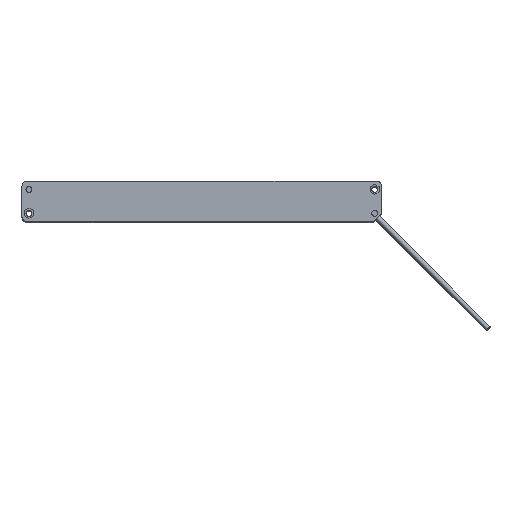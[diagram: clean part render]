
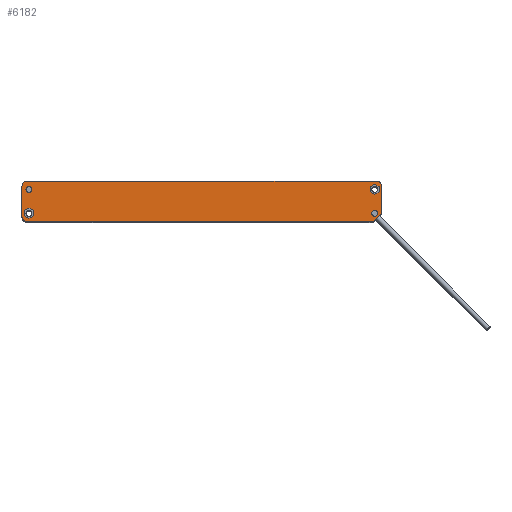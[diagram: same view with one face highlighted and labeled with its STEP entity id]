
A CAD part, top view. The second image highlights one B-rep face of the part: STEP entity #6182.
In plain terms, the highlighted planar face has unit normal (0, 0, 1).
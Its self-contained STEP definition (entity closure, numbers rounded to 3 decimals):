
#207=FACE_BOUND('',#1037,.T.);
#208=FACE_BOUND('',#1038,.T.);
#209=FACE_BOUND('',#1039,.T.);
#210=FACE_BOUND('',#1040,.T.);
#335=CIRCLE('',#6651,2.25);
#337=CIRCLE('',#6656,4.);
#339=CIRCLE('',#6659,4.);
#341=CIRCLE('',#6665,0.5);
#342=CIRCLE('',#6666,0.5);
#343=CIRCLE('',#6667,4.);
#344=CIRCLE('',#6668,2.25);
#630=FACE_OUTER_BOUND('',#1036,.T.);
#1036=EDGE_LOOP('',(#4713,#4714,#4715,#4716,#4717,#4718,#4719,#4720,#4721,
#4722));
#1037=EDGE_LOOP('',(#4723,#4724,#4725,#4726,#4727,#4728));
#1038=EDGE_LOOP('',(#4729));
#1039=EDGE_LOOP('',(#4730));
#1040=EDGE_LOOP('',(#4731,#4732,#4733,#4734,#4735,#4736));
#1572=LINE('',#9709,#2172);
#1575=LINE('',#9714,#2175);
#1577=LINE('',#9718,#2177);
#1579=LINE('',#9722,#2179);
#1581=LINE('',#9726,#2181);
#1583=LINE('',#9729,#2183);
#1586=LINE('',#9740,#2186);
#1591=LINE('',#9761,#2191);
#1596=LINE('',#9770,#2196);
#1604=LINE('',#9786,#2204);
#1605=LINE('',#9790,#2205);
#1606=LINE('',#9794,#2206);
#1607=LINE('',#9796,#2207);
#1608=LINE('',#9798,#2208);
#1609=LINE('',#9800,#2209);
#1610=LINE('',#9802,#2210);
#1611=LINE('',#9803,#2211);
#2172=VECTOR('',#7867,3.969);
#2175=VECTOR('',#7872,3.969);
#2177=VECTOR('',#7876,3.969);
#2179=VECTOR('',#7880,3.969);
#2181=VECTOR('',#7884,3.969);
#2183=VECTOR('',#7888,3.969);
#2186=VECTOR('',#7897,22.5);
#2191=VECTOR('',#7920,262.);
#2196=VECTOR('',#7927,259.379);
#2204=VECTOR('',#7941,8.657);
#2205=VECTOR('',#7944,19.879);
#2206=VECTOR('',#7947,3.969);
#2207=VECTOR('',#7948,3.969);
#2208=VECTOR('',#7949,3.969);
#2209=VECTOR('',#7950,3.969);
#2210=VECTOR('',#7951,3.969);
#2211=VECTOR('',#7952,3.969);
#2729=VERTEX_POINT('',#9707);
#2730=VERTEX_POINT('',#9708);
#2731=VERTEX_POINT('',#9713);
#2732=VERTEX_POINT('',#9717);
#2733=VERTEX_POINT('',#9721);
#2734=VERTEX_POINT('',#9725);
#2735=VERTEX_POINT('',#9731);
#2738=VERTEX_POINT('',#9737);
#2739=VERTEX_POINT('',#9739);
#2741=VERTEX_POINT('',#9746);
#2743=VERTEX_POINT('',#9752);
#2746=VERTEX_POINT('',#9760);
#2749=VERTEX_POINT('',#9769);
#2753=VERTEX_POINT('',#9783);
#2754=VERTEX_POINT('',#9785);
#2755=VERTEX_POINT('',#9787);
#2756=VERTEX_POINT('',#9789);
#2757=VERTEX_POINT('',#9792);
#2758=VERTEX_POINT('',#9793);
#2759=VERTEX_POINT('',#9795);
#2760=VERTEX_POINT('',#9797);
#2761=VERTEX_POINT('',#9799);
#2762=VERTEX_POINT('',#9801);
#2763=VERTEX_POINT('',#9804);
#3408=EDGE_CURVE('',#2729,#2730,#1572,.T.);
#3411=EDGE_CURVE('',#2730,#2731,#1575,.T.);
#3413=EDGE_CURVE('',#2731,#2732,#1577,.T.);
#3415=EDGE_CURVE('',#2732,#2733,#1579,.T.);
#3417=EDGE_CURVE('',#2733,#2734,#1581,.T.);
#3419=EDGE_CURVE('',#2734,#2729,#1583,.T.);
#3420=EDGE_CURVE('',#2735,#2735,#335,.T.);
#3423=EDGE_CURVE('',#2739,#2738,#1586,.F.);
#3426=EDGE_CURVE('',#2741,#2738,#337,.T.);
#3429=EDGE_CURVE('',#2739,#2743,#339,.T.);
#3433=EDGE_CURVE('',#2746,#2743,#1591,.F.);
#3438=EDGE_CURVE('',#2741,#2749,#1596,.T.);
#3446=EDGE_CURVE('',#2753,#2749,#341,.T.);
#3447=EDGE_CURVE('',#2754,#2753,#1604,.F.);
#3448=EDGE_CURVE('',#2755,#2754,#342,.T.);
#3449=EDGE_CURVE('',#2755,#2756,#1605,.T.);
#3450=EDGE_CURVE('',#2746,#2756,#343,.T.);
#3451=EDGE_CURVE('',#2757,#2758,#1606,.T.);
#3452=EDGE_CURVE('',#2758,#2759,#1607,.T.);
#3453=EDGE_CURVE('',#2759,#2760,#1608,.T.);
#3454=EDGE_CURVE('',#2760,#2761,#1609,.T.);
#3455=EDGE_CURVE('',#2761,#2762,#1610,.T.);
#3456=EDGE_CURVE('',#2762,#2757,#1611,.T.);
#3457=EDGE_CURVE('',#2763,#2763,#344,.F.);
#4713=ORIENTED_EDGE('',*,*,#3433,.T.);
#4714=ORIENTED_EDGE('',*,*,#3429,.F.);
#4715=ORIENTED_EDGE('',*,*,#3423,.T.);
#4716=ORIENTED_EDGE('',*,*,#3426,.F.);
#4717=ORIENTED_EDGE('',*,*,#3438,.T.);
#4718=ORIENTED_EDGE('',*,*,#3446,.F.);
#4719=ORIENTED_EDGE('',*,*,#3447,.F.);
#4720=ORIENTED_EDGE('',*,*,#3448,.F.);
#4721=ORIENTED_EDGE('',*,*,#3449,.T.);
#4722=ORIENTED_EDGE('',*,*,#3450,.F.);
#4723=ORIENTED_EDGE('',*,*,#3451,.T.);
#4724=ORIENTED_EDGE('',*,*,#3452,.T.);
#4725=ORIENTED_EDGE('',*,*,#3453,.T.);
#4726=ORIENTED_EDGE('',*,*,#3454,.T.);
#4727=ORIENTED_EDGE('',*,*,#3455,.T.);
#4728=ORIENTED_EDGE('',*,*,#3456,.T.);
#4729=ORIENTED_EDGE('',*,*,#3457,.F.);
#4730=ORIENTED_EDGE('',*,*,#3420,.T.);
#4731=ORIENTED_EDGE('',*,*,#3419,.T.);
#4732=ORIENTED_EDGE('',*,*,#3408,.T.);
#4733=ORIENTED_EDGE('',*,*,#3411,.T.);
#4734=ORIENTED_EDGE('',*,*,#3413,.T.);
#4735=ORIENTED_EDGE('',*,*,#3415,.T.);
#4736=ORIENTED_EDGE('',*,*,#3417,.T.);
#5503=PLANE('',#6664);
#6182=ADVANCED_FACE('',(#630,#207,#208,#209,#210),#5503,.F.);
#6651=AXIS2_PLACEMENT_3D('',#9732,#7891,#7892);
#6656=AXIS2_PLACEMENT_3D('',#9747,#7905,#7906);
#6659=AXIS2_PLACEMENT_3D('',#9753,#7912,#7913);
#6664=AXIS2_PLACEMENT_3D('',#9782,#7937,#7938);
#6665=AXIS2_PLACEMENT_3D('',#9784,#7939,#7940);
#6666=AXIS2_PLACEMENT_3D('',#9788,#7942,#7943);
#6667=AXIS2_PLACEMENT_3D('',#9791,#7945,#7946);
#6668=AXIS2_PLACEMENT_3D('',#9805,#7953,#7954);
#7867=DIRECTION('',(-0.866,0.5,0.));
#7872=DIRECTION('',(0.,1.,0.));
#7876=DIRECTION('',(0.866,0.5,0.));
#7880=DIRECTION('',(0.866,-0.5,0.));
#7884=DIRECTION('',(0.,-1.,0.));
#7888=DIRECTION('',(-0.866,-0.5,0.));
#7891=DIRECTION('center_axis',(0.,0.,-1.));
#7892=DIRECTION('ref_axis',(-1.,0.,0.));
#7897=DIRECTION('',(0.,1.,0.));
#7905=DIRECTION('center_axis',(0.,0.,-1.));
#7906=DIRECTION('ref_axis',(-1.,0.,0.));
#7912=DIRECTION('center_axis',(0.,0.,-1.));
#7913=DIRECTION('ref_axis',(-1.,0.,0.));
#7920=DIRECTION('',(1.,0.,0.));
#7927=DIRECTION('',(1.,0.,0.));
#7937=DIRECTION('center_axis',(0.,0.,-1.));
#7938=DIRECTION('ref_axis',(-1.,0.,0.));
#7939=DIRECTION('center_axis',(0.,0.,-1.));
#7940=DIRECTION('ref_axis',(-1.,0.,0.));
#7941=DIRECTION('',(0.707,0.707,0.));
#7942=DIRECTION('center_axis',(0.,0.,-1.));
#7943=DIRECTION('ref_axis',(-1.,0.,0.));
#7944=DIRECTION('',(0.,1.,0.));
#7945=DIRECTION('center_axis',(0.,0.,-1.));
#7946=DIRECTION('ref_axis',(-1.,0.,0.));
#7947=DIRECTION('',(0.866,0.5,0.));
#7948=DIRECTION('',(0.866,-0.5,0.));
#7949=DIRECTION('',(0.,-1.,0.));
#7950=DIRECTION('',(-0.866,-0.5,0.));
#7951=DIRECTION('',(-0.866,0.5,0.));
#7952=DIRECTION('',(0.,1.,0.));
#7953=DIRECTION('center_axis',(0.,0.,-1.));
#7954=DIRECTION('ref_axis',(-1.,0.,0.));
#9707=CARTESIAN_POINT('',(-225.25,-147.719,426.));
#9708=CARTESIAN_POINT('',(-228.688,-145.735,426.));
#9709=CARTESIAN_POINT('',(-225.25,-147.719,426.));
#9713=CARTESIAN_POINT('',(-228.688,-141.765,426.));
#9714=CARTESIAN_POINT('',(-228.688,-145.735,426.));
#9717=CARTESIAN_POINT('',(-225.25,-139.781,426.));
#9718=CARTESIAN_POINT('',(-228.688,-141.765,426.));
#9721=CARTESIAN_POINT('',(-221.812,-141.765,426.));
#9722=CARTESIAN_POINT('',(-225.25,-139.781,426.));
#9725=CARTESIAN_POINT('',(-221.812,-145.735,426.));
#9726=CARTESIAN_POINT('',(-221.812,-141.765,426.));
#9729=CARTESIAN_POINT('',(-221.812,-145.735,426.));
#9731=CARTESIAN_POINT('',(-227.5,-125.75,426.));
#9732=CARTESIAN_POINT('Origin',(-225.25,-125.75,426.));
#9737=CARTESIAN_POINT('',(-230.5,-146.,426.));
#9739=CARTESIAN_POINT('',(-230.5,-123.5,426.));
#9740=CARTESIAN_POINT('',(-230.5,-146.,426.));
#9746=CARTESIAN_POINT('',(-226.5,-150.,426.));
#9747=CARTESIAN_POINT('Origin',(-226.5,-146.,426.));
#9752=CARTESIAN_POINT('',(-226.5,-119.5,426.));
#9753=CARTESIAN_POINT('Origin',(-226.5,-123.5,426.));
#9760=CARTESIAN_POINT('',(35.5,-119.5,426.));
#9761=CARTESIAN_POINT('',(-226.5,-119.5,426.));
#9769=CARTESIAN_POINT('',(32.879,-150.,426.));
#9770=CARTESIAN_POINT('',(-226.5,-150.,426.));
#9782=CARTESIAN_POINT('Origin',(-5.,-134.,426.));
#9783=CARTESIAN_POINT('',(33.232,-149.854,426.));
#9784=CARTESIAN_POINT('Origin',(32.879,-149.5,426.));
#9785=CARTESIAN_POINT('',(39.354,-143.732,426.));
#9786=CARTESIAN_POINT('',(33.232,-149.854,426.));
#9787=CARTESIAN_POINT('',(39.5,-143.379,426.));
#9788=CARTESIAN_POINT('Origin',(39.,-143.379,426.));
#9789=CARTESIAN_POINT('',(39.5,-123.5,426.));
#9790=CARTESIAN_POINT('',(39.5,-143.379,426.));
#9791=CARTESIAN_POINT('Origin',(35.5,-123.5,426.));
#9792=CARTESIAN_POINT('',(30.812,-123.765,426.));
#9793=CARTESIAN_POINT('',(34.25,-121.781,426.));
#9794=CARTESIAN_POINT('',(30.812,-123.765,426.));
#9795=CARTESIAN_POINT('',(37.688,-123.765,426.));
#9796=CARTESIAN_POINT('',(34.25,-121.781,426.));
#9797=CARTESIAN_POINT('',(37.688,-127.735,426.));
#9798=CARTESIAN_POINT('',(37.688,-123.765,426.));
#9799=CARTESIAN_POINT('',(34.25,-129.719,426.));
#9800=CARTESIAN_POINT('',(37.688,-127.735,426.));
#9801=CARTESIAN_POINT('',(30.812,-127.735,426.));
#9802=CARTESIAN_POINT('',(34.25,-129.719,426.));
#9803=CARTESIAN_POINT('',(30.812,-127.735,426.));
#9804=CARTESIAN_POINT('',(32.,-143.75,426.));
#9805=CARTESIAN_POINT('Origin',(34.25,-143.75,426.));
